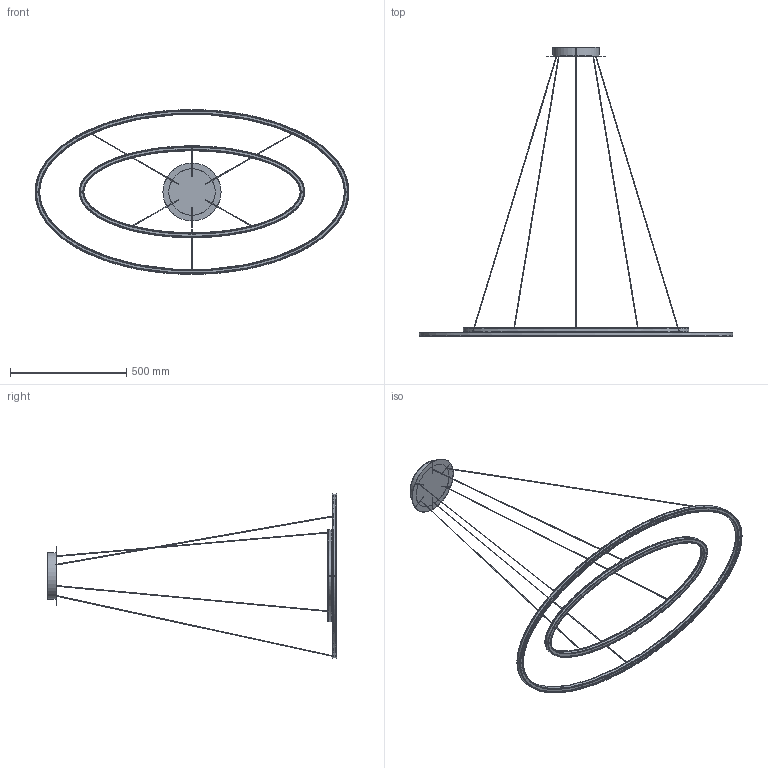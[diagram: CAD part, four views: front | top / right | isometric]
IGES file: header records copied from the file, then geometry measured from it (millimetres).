
Start section: SolidWorks IGES file using analytic representation for surfaces
Global section: file name: C:\Users\tungari.NEMOLIGHTING\Desktop\3D\PENDANT\3D_ELLISSE_PENDANT_DOUBLE\ED_ELLISSE_PENDANT_DOUBLE\3D_ELLISSE_PENDANT_DOUBLE.IGS; native system: SolidWorks 2016; preprocessor: SolidWorks 2016; author: tungari; date: 180223.124639; units: millimetre
Bounding box: 1350 x 1246.91 x 709 mm (x, y, z)
Surface area: 1147645.3 mm2 (no closed solid volume)
Topology: 0 solids, 0 shells, 697 faces, 9012 edges, 9012 vertices
Faces by surface type: revolution 383, bspline 314
